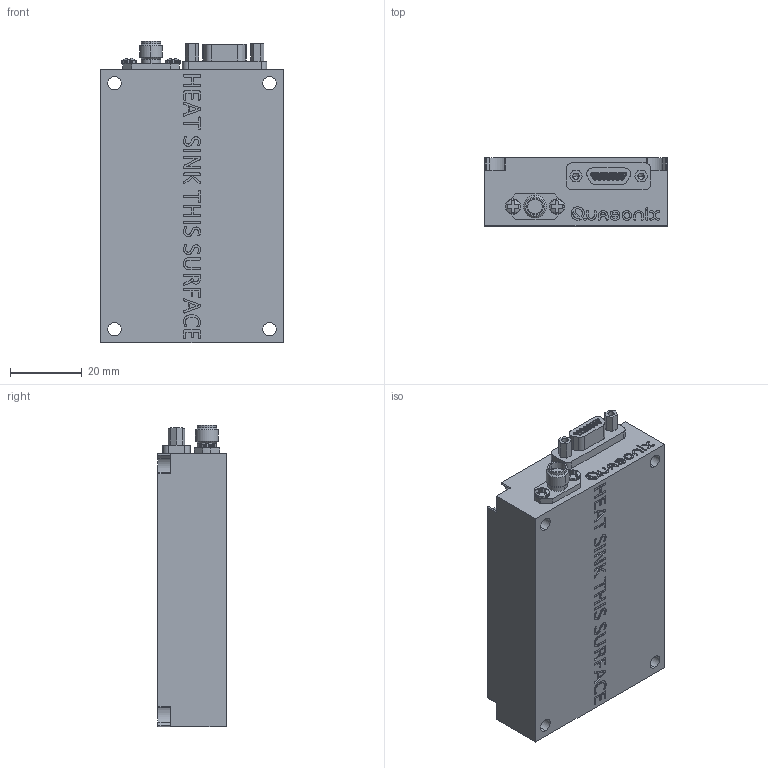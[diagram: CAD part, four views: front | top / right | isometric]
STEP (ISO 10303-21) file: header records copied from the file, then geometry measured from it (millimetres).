
FILE_DESCRIPTION (( 'STEP AP203' ), '1' );
FILE_NAME ('QS-TX-05AEXXX.STEP', '2019-11-30T18:22:46', ( '' ), ( '' ), 'SwSTEP 2.0', 'SolidWorks 2018', '' );
FILE_SCHEMA (( 'CONFIG_CONTROL_DESIGN' ));
Length unit declared in the file: millimetre
Products named in the file (1): QS-TX-05AEXXX
Bounding box: 50.8 x 19.05 x 84.14 mm (x, y, z)
Volume: 73688.7 mm3; surface area: 15075.2 mm2
Topology: 7 solids, 7 shells, 828 faces, 2198 edges, 1444 vertices
Faces by surface type: plane 308, bspline 300, cylinder 190, cone 14, torus 12, sphere 4
Entity records: 35306 total; most frequent: CARTESIAN_POINT 16235, ORIENTED_EDGE 4328, DIRECTION 3240, EDGE_CURVE 2164, VERTEX_POINT 1444, AXIS2_PLACEMENT_3D 1081, VECTOR 1078, LINE 1078
